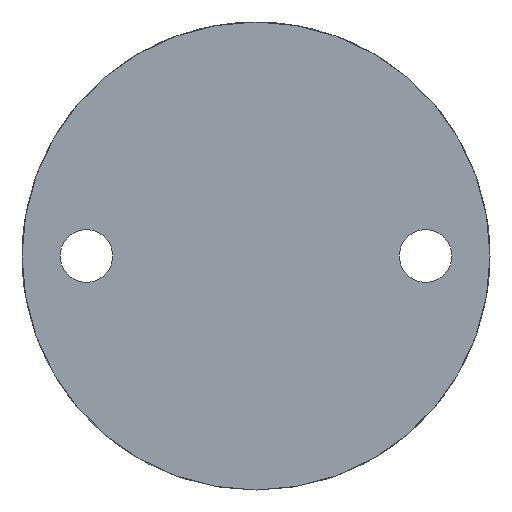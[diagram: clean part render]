
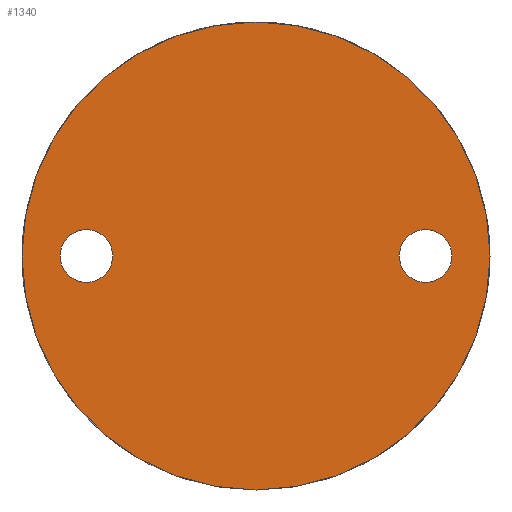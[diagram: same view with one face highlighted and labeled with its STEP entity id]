
A CAD part, front view. The second image highlights one B-rep face of the part: STEP entity #1340.
In plain terms, the highlighted planar face has unit normal (0, -1, 0).
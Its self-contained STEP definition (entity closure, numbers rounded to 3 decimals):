
#3 = VERTEX_POINT ( 'NONE', #1162 ) ;
#125 = EDGE_LOOP ( 'NONE', ( #2066 ) ) ;
#218 = DIRECTION ( 'NONE',  ( 0., 1., 0. ) ) ;
#324 = EDGE_CURVE ( 'NONE', #3, #3, #768, .T. ) ;
#376 = CARTESIAN_POINT ( 'NONE',  ( 29., 0., 4.5 ) ) ;
#400 = ORIENTED_EDGE ( 'NONE', *, *, #908, .T. ) ;
#406 = CARTESIAN_POINT ( 'NONE',  ( 29., 0., 0. ) ) ;
#488 = EDGE_LOOP ( 'NONE', ( #400 ) ) ;
#624 = CARTESIAN_POINT ( 'NONE',  ( -29., 0., 0. ) ) ;
#646 = AXIS2_PLACEMENT_3D ( 'NONE', #624, #218, #1377 ) ;
#678 = DIRECTION ( 'NONE',  ( 0., 0., 1. ) ) ;
#715 = AXIS2_PLACEMENT_3D ( 'NONE', #1210, #2415, #2231 ) ;
#768 = CIRCLE ( 'NONE', #646, 4.5 ) ;
#908 = EDGE_CURVE ( 'NONE', #2097, #2097, #1395, .T. ) ;
#1162 = CARTESIAN_POINT ( 'NONE',  ( -29., 0., 4.5 ) ) ;
#1207 = EDGE_CURVE ( 'NONE', #2291, #2291, #1710, .T. ) ;
#1210 = CARTESIAN_POINT ( 'NONE',  ( 0., 0., 0. ) ) ;
#1248 = DIRECTION ( 'NONE',  ( 0., 1., 0. ) ) ;
#1266 = DIRECTION ( 'NONE',  ( 0., 0., 1. ) ) ;
#1278 = PLANE ( 'NONE',  #2118 ) ;
#1340 = ADVANCED_FACE ( 'NONE', ( #2460, #2036, #2021 ), #1278, .F. ) ;
#1377 = DIRECTION ( 'NONE',  ( 0., 0., 1. ) ) ;
#1395 = CIRCLE ( 'NONE', #2031, 4.5 ) ;
#1462 = CARTESIAN_POINT ( 'NONE',  ( 0., 0., 0. ) ) ;
#1474 = DIRECTION ( 'NONE',  ( 0., 1., 0. ) ) ;
#1710 = CIRCLE ( 'NONE', #715, 40. ) ;
#1741 = ORIENTED_EDGE ( 'NONE', *, *, #324, .T. ) ;
#1928 = EDGE_LOOP ( 'NONE', ( #1741 ) ) ;
#1941 = CARTESIAN_POINT ( 'NONE',  ( 0., 0., -40. ) ) ;
#2021 = FACE_OUTER_BOUND ( 'NONE', #125, .T. ) ;
#2031 = AXIS2_PLACEMENT_3D ( 'NONE', #406, #1248, #678 ) ;
#2036 = FACE_BOUND ( 'NONE', #1928, .T. ) ;
#2066 = ORIENTED_EDGE ( 'NONE', *, *, #1207, .T. ) ;
#2097 = VERTEX_POINT ( 'NONE', #376 ) ;
#2118 = AXIS2_PLACEMENT_3D ( 'NONE', #1462, #1474, #1266 ) ;
#2231 = DIRECTION ( 'NONE',  ( 0., 0., -1. ) ) ;
#2291 = VERTEX_POINT ( 'NONE', #1941 ) ;
#2415 = DIRECTION ( 'NONE',  ( 0., -1., 0. ) ) ;
#2460 = FACE_BOUND ( 'NONE', #488, .T. ) ;
